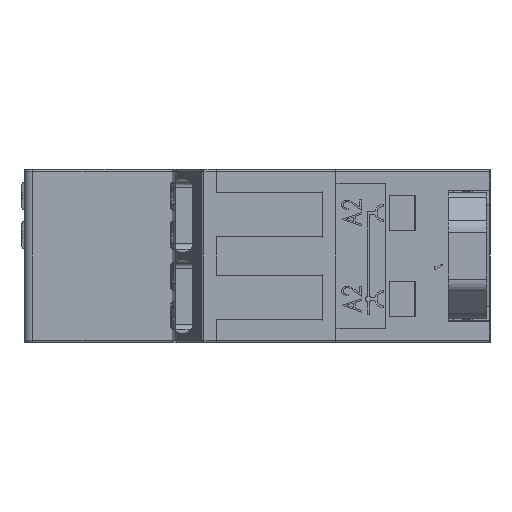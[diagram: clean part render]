
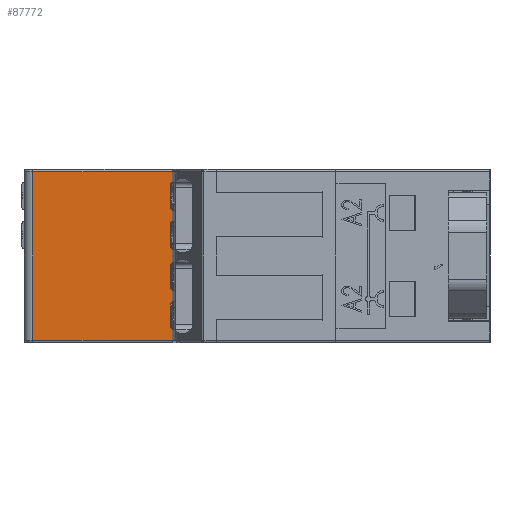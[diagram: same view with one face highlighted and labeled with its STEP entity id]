
A CAD part, left-side view. The second image highlights one B-rep face of the part: STEP entity #87772.
In plain terms, the highlighted planar face has unit normal (-1, 0, 0).
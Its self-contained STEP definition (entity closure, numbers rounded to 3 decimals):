
#710 = ORIENTED_EDGE ( 'NONE', *, *, #98225, .T. ) ;
#1726 = DIRECTION ( 'NONE',  ( 0., 0., -1. ) ) ;
#2107 = LINE ( 'NONE', #61299, #49722 ) ;
#6048 = CARTESIAN_POINT ( 'NONE',  ( -1.095, -0.03, -46.505 ) ) ;
#6155 = ORIENTED_EDGE ( 'NONE', *, *, #7676, .T. ) ;
#7324 = VERTEX_POINT ( 'NONE', #9833 ) ;
#7676 = EDGE_CURVE ( 'NONE', #23941, #99504, #76344, .T. ) ;
#9042 = CARTESIAN_POINT ( 'NONE',  ( -1.095, -0.03, -59.255 ) ) ;
#9181 = EDGE_CURVE ( 'NONE', #87005, #82933, #97140, .T. ) ;
#9511 = EDGE_CURVE ( 'NONE', #108299, #19032, #92611, .T. ) ;
#9833 = CARTESIAN_POINT ( 'NONE',  ( -1.095, 6.87, -46.755 ) ) ;
#11573 = CARTESIAN_POINT ( 'NONE',  ( -1.095, -0.28, -60.555 ) ) ;
#15009 = LINE ( 'NONE', #48730, #20017 ) ;
#15712 = CARTESIAN_POINT ( 'NONE',  ( -1.095, 6.87, -45.205 ) ) ;
#17164 = DIRECTION ( 'NONE',  ( 0., 1., 0. ) ) ;
#17592 = CARTESIAN_POINT ( 'NONE',  ( -1.095, 6.87, -44.955 ) ) ;
#19032 = VERTEX_POINT ( 'NONE', #21104 ) ;
#20017 = VECTOR ( 'NONE', #32156, 1000. ) ;
#20462 = ORIENTED_EDGE ( 'NONE', *, *, #9181, .F. ) ;
#20611 = VECTOR ( 'NONE', #89490, 1000. ) ;
#21104 = CARTESIAN_POINT ( 'NONE',  ( -1.095, -0.03, -60.555 ) ) ;
#23808 = EDGE_LOOP ( 'NONE', ( #20462, #84670, #43823, #89640, #6155, #70150, #31576, #82175, #710, #73513 ) ) ;
#23941 = VERTEX_POINT ( 'NONE', #81122 ) ;
#24131 = LINE ( 'NONE', #55712, #20611 ) ;
#30672 = LINE ( 'NONE', #15712, #62813 ) ;
#30763 = AXIS2_PLACEMENT_3D ( 'NONE', #17592, #43583, #33653 ) ;
#30803 = EDGE_CURVE ( 'NONE', #23941, #108299, #24131, .T. ) ;
#31576 = ORIENTED_EDGE ( 'NONE', *, *, #85984, .T. ) ;
#31593 = AXIS2_PLACEMENT_3D ( 'NONE', #103540, #87476, #1726 ) ;
#32156 = DIRECTION ( 'NONE',  ( 0., 0., 1. ) ) ;
#33653 = DIRECTION ( 'NONE',  ( 0., 1., 0. ) ) ;
#34822 = DIRECTION ( 'NONE',  ( 0., -1., 0. ) ) ;
#35420 = VECTOR ( 'NONE', #17164, 1000. ) ;
#41265 = CARTESIAN_POINT ( 'NONE',  ( -1.095, 6.62, -59.005 ) ) ;
#41759 = CARTESIAN_POINT ( 'NONE',  ( -1.095, 6.62, -46.505 ) ) ;
#42786 = DIRECTION ( 'NONE',  ( 0., 0., -1. ) ) ;
#43583 = DIRECTION ( 'NONE',  ( 1., 0., 0. ) ) ;
#43823 = ORIENTED_EDGE ( 'NONE', *, *, #9511, .F. ) ;
#48730 = CARTESIAN_POINT ( 'NONE',  ( -1.095, -0.03, -46.505 ) ) ;
#49722 = VECTOR ( 'NONE', #87322, 1000. ) ;
#50758 = FACE_OUTER_BOUND ( 'NONE', #23808, .T. ) ;
#51860 = PLANE ( 'NONE',  #30763 ) ;
#53595 = LINE ( 'NONE', #11573, #99075 ) ;
#55123 = AXIS2_PLACEMENT_3D ( 'NONE', #41265, #93260, #75007 ) ;
#55712 = CARTESIAN_POINT ( 'NONE',  ( -1.095, 6.87, -59.255 ) ) ;
#56665 = DIRECTION ( 'NONE',  ( 0., 1., 0. ) ) ;
#57586 = CARTESIAN_POINT ( 'NONE',  ( -1.095, 6.87, -46.505 ) ) ;
#61299 = CARTESIAN_POINT ( 'NONE',  ( -1.095, 6.87, -44.955 ) ) ;
#62813 = VECTOR ( 'NONE', #56665, 1000. ) ;
#66974 = CARTESIAN_POINT ( 'NONE',  ( -1.095, 6.87, -59.005 ) ) ;
#69581 = VERTEX_POINT ( 'NONE', #74673 ) ;
#70150 = ORIENTED_EDGE ( 'NONE', *, *, #76607, .F. ) ;
#72465 = EDGE_CURVE ( 'NONE', #69581, #82933, #30672, .T. ) ;
#72973 = VECTOR ( 'NONE', #42786, 1000. ) ;
#73280 = DIRECTION ( 'NONE',  ( 0., 0., 1. ) ) ;
#73513 = ORIENTED_EDGE ( 'NONE', *, *, #72465, .T. ) ;
#74673 = CARTESIAN_POINT ( 'NONE',  ( -1.095, -0.03, -45.205 ) ) ;
#74783 = VECTOR ( 'NONE', #73280, 1000. ) ;
#75007 = DIRECTION ( 'NONE',  ( 0., 0., -1. ) ) ;
#76129 = CARTESIAN_POINT ( 'NONE',  ( -1.095, -0.03, -59.255 ) ) ;
#76344 = CIRCLE ( 'NONE', #55123, 0.25 ) ;
#76607 = EDGE_CURVE ( 'NONE', #7324, #99504, #2107, .T. ) ;
#81122 = CARTESIAN_POINT ( 'NONE',  ( -1.095, 6.62, -59.255 ) ) ;
#82175 = ORIENTED_EDGE ( 'NONE', *, *, #99507, .F. ) ;
#82933 = VERTEX_POINT ( 'NONE', #83645 ) ;
#83645 = CARTESIAN_POINT ( 'NONE',  ( -1.095, 19.57, -45.205 ) ) ;
#84323 = CIRCLE ( 'NONE', #31593, 0.25 ) ;
#84670 = ORIENTED_EDGE ( 'NONE', *, *, #95298, .T. ) ;
#85984 = EDGE_CURVE ( 'NONE', #7324, #89097, #84323, .T. ) ;
#87005 = VERTEX_POINT ( 'NONE', #99223 ) ;
#87322 = DIRECTION ( 'NONE',  ( 0., 0., -1. ) ) ;
#87476 = DIRECTION ( 'NONE',  ( 1., 0., 0. ) ) ;
#87772 = ADVANCED_FACE ( 'NONE', ( #50758 ), #51860, .F. ) ;
#89097 = VERTEX_POINT ( 'NONE', #41759 ) ;
#89490 = DIRECTION ( 'NONE',  ( 0., -1., 0. ) ) ;
#89640 = ORIENTED_EDGE ( 'NONE', *, *, #30803, .F. ) ;
#92611 = LINE ( 'NONE', #9042, #72973 ) ;
#92981 = LINE ( 'NONE', #57586, #35420 ) ;
#93014 = VERTEX_POINT ( 'NONE', #6048 ) ;
#93260 = DIRECTION ( 'NONE',  ( 1., 0., 0. ) ) ;
#95298 = EDGE_CURVE ( 'NONE', #87005, #19032, #53595, .T. ) ;
#97140 = LINE ( 'NONE', #97682, #74783 ) ;
#97682 = CARTESIAN_POINT ( 'NONE',  ( -1.095, 19.57, -124.272 ) ) ;
#98225 = EDGE_CURVE ( 'NONE', #93014, #69581, #15009, .T. ) ;
#99075 = VECTOR ( 'NONE', #34822, 1000. ) ;
#99223 = CARTESIAN_POINT ( 'NONE',  ( -1.095, 19.57, -60.555 ) ) ;
#99504 = VERTEX_POINT ( 'NONE', #66974 ) ;
#99507 = EDGE_CURVE ( 'NONE', #93014, #89097, #92981, .T. ) ;
#103540 = CARTESIAN_POINT ( 'NONE',  ( -1.095, 6.62, -46.755 ) ) ;
#108299 = VERTEX_POINT ( 'NONE', #76129 ) ;
